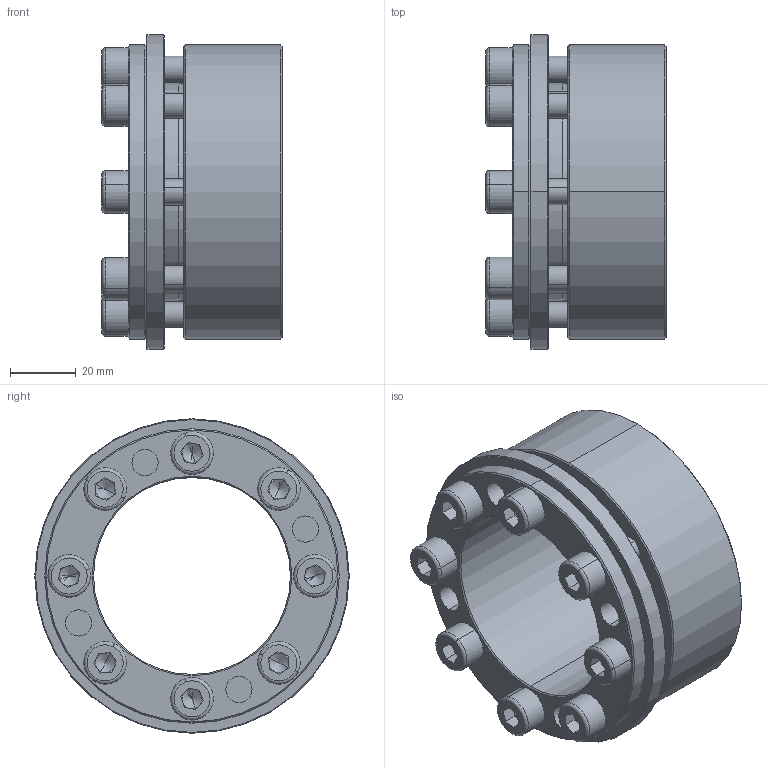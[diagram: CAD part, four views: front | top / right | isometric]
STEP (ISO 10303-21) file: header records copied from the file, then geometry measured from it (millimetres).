
FILE_DESCRIPTION (( 'STEP AP214' ), '1' );
FILE_NAME ('H5×°ÅäÌå60-90.STEP', '2022-07-26T02:29:40', ( '' ), ( '' ), 'SwSTEP 2.0', 'SolidWorks 2022', '' );
FILE_SCHEMA (( 'AUTOMOTIVE_DESIGN' ));
Length unit declared in the file: millimetre
Products named in the file (1): H5蚾饜极60-90
Bounding box: 55 x 96 x 96 mm (x, y, z)
Volume: 151462.5 mm3; surface area: 51792.9 mm2
Topology: 1 solids, 1 shells, 294 faces, 704 edges, 426 vertices
Faces by surface type: plane 128, cylinder 86, cone 64, torus 16
Entity records: 8520 total; most frequent: DIRECTION 1624, CARTESIAN_POINT 1409, ORIENTED_EDGE 1376, EDGE_CURVE 688, AXIS2_PLACEMENT_3D 641, VERTEX_POINT 426, EDGE_LOOP 350, CIRCLE 346
